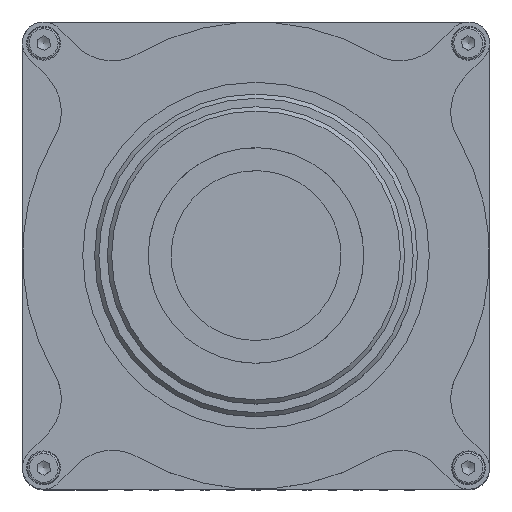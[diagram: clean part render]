
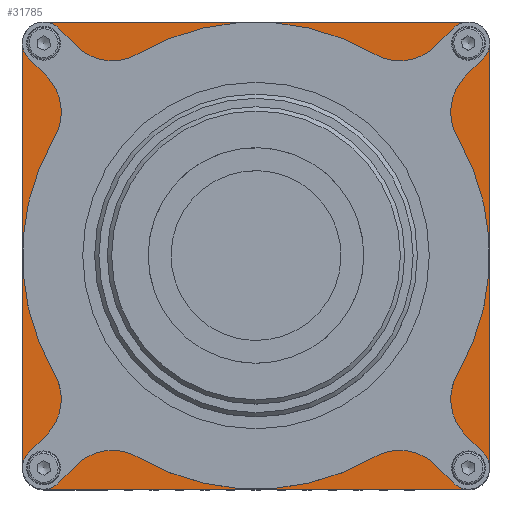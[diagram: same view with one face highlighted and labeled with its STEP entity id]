
A CAD part, top view. The second image highlights one B-rep face of the part: STEP entity #31785.
In plain terms, the highlighted planar face has unit normal (0, 0, 1).
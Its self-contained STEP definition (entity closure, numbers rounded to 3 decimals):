
#1629=FACE_BOUND('',#10366,.T.);
#1630=FACE_BOUND('',#10367,.T.);
#1631=FACE_BOUND('',#10368,.T.);
#1632=FACE_BOUND('',#10369,.T.);
#1633=FACE_BOUND('',#10370,.T.);
#3122=LINE('',#47547,#5662);
#3123=LINE('',#47551,#5663);
#3124=LINE('',#47555,#5664);
#3125=LINE('',#47559,#5665);
#5662=VECTOR('',#38995,10.);
#5663=VECTOR('',#38998,10.);
#5664=VECTOR('',#39001,10.);
#5665=VECTOR('',#39004,10.);
#8413=FACE_OUTER_BOUND('',#10365,.T.);
#10365=EDGE_LOOP('',(#23527,#23528,#23529,#23530,#23531,#23532,#23533,#23534));
#10366=EDGE_LOOP('',(#23535));
#10367=EDGE_LOOP('',(#23536));
#10368=EDGE_LOOP('',(#23537));
#10369=EDGE_LOOP('',(#23538));
#10370=EDGE_LOOP('',(#23539));
#12397=CIRCLE('',#34417,23.95);
#12398=CIRCLE('',#34419,2.5);
#12399=CIRCLE('',#34420,2.5);
#12400=CIRCLE('',#34421,2.5);
#12401=CIRCLE('',#34422,2.5);
#12402=CIRCLE('',#34423,0.784);
#12403=CIRCLE('',#34424,0.784);
#12404=CIRCLE('',#34425,0.784);
#12405=CIRCLE('',#34426,0.784);
#14099=VERTEX_POINT('',#47541);
#14100=VERTEX_POINT('',#47545);
#14101=VERTEX_POINT('',#47546);
#14102=VERTEX_POINT('',#47548);
#14103=VERTEX_POINT('',#47550);
#14104=VERTEX_POINT('',#47552);
#14105=VERTEX_POINT('',#47554);
#14106=VERTEX_POINT('',#47556);
#14107=VERTEX_POINT('',#47558);
#14108=VERTEX_POINT('',#47561);
#14109=VERTEX_POINT('',#47563);
#14110=VERTEX_POINT('',#47565);
#14111=VERTEX_POINT('',#47567);
#17623=EDGE_CURVE('',#14099,#14099,#12397,.T.);
#17625=EDGE_CURVE('',#14100,#14101,#3122,.T.);
#17626=EDGE_CURVE('',#14101,#14102,#12398,.T.);
#17627=EDGE_CURVE('',#14102,#14103,#3123,.T.);
#17628=EDGE_CURVE('',#14103,#14104,#12399,.T.);
#17629=EDGE_CURVE('',#14104,#14105,#3124,.T.);
#17630=EDGE_CURVE('',#14105,#14106,#12400,.T.);
#17631=EDGE_CURVE('',#14106,#14107,#3125,.T.);
#17632=EDGE_CURVE('',#14107,#14100,#12401,.T.);
#17633=EDGE_CURVE('',#14108,#14108,#12402,.T.);
#17634=EDGE_CURVE('',#14109,#14109,#12403,.T.);
#17635=EDGE_CURVE('',#14110,#14110,#12404,.T.);
#17636=EDGE_CURVE('',#14111,#14111,#12405,.T.);
#23527=ORIENTED_EDGE('',*,*,#17625,.T.);
#23528=ORIENTED_EDGE('',*,*,#17626,.T.);
#23529=ORIENTED_EDGE('',*,*,#17627,.T.);
#23530=ORIENTED_EDGE('',*,*,#17628,.T.);
#23531=ORIENTED_EDGE('',*,*,#17629,.T.);
#23532=ORIENTED_EDGE('',*,*,#17630,.T.);
#23533=ORIENTED_EDGE('',*,*,#17631,.T.);
#23534=ORIENTED_EDGE('',*,*,#17632,.T.);
#23535=ORIENTED_EDGE('',*,*,#17633,.T.);
#23536=ORIENTED_EDGE('',*,*,#17634,.T.);
#23537=ORIENTED_EDGE('',*,*,#17635,.T.);
#23538=ORIENTED_EDGE('',*,*,#17636,.T.);
#23539=ORIENTED_EDGE('',*,*,#17623,.T.);
#30680=PLANE('',#34418);
#31785=ADVANCED_FACE('',(#8413,#1629,#1630,#1631,#1632,#1633),#30680,.T.);
#34417=AXIS2_PLACEMENT_3D('',#47542,#38990,#38991);
#34418=AXIS2_PLACEMENT_3D('',#47544,#38993,#38994);
#34419=AXIS2_PLACEMENT_3D('',#47549,#38996,#38997);
#34420=AXIS2_PLACEMENT_3D('',#47553,#38999,#39000);
#34421=AXIS2_PLACEMENT_3D('',#47557,#39002,#39003);
#34422=AXIS2_PLACEMENT_3D('',#47560,#39005,#39006);
#34423=AXIS2_PLACEMENT_3D('',#47562,#39007,#39008);
#34424=AXIS2_PLACEMENT_3D('',#47564,#39009,#39010);
#34425=AXIS2_PLACEMENT_3D('',#47566,#39011,#39012);
#34426=AXIS2_PLACEMENT_3D('',#47568,#39013,#39014);
#38990=DIRECTION('center_axis',(0.,0.,-1.));
#38991=DIRECTION('ref_axis',(-1.,0.,0.));
#38993=DIRECTION('center_axis',(0.,0.,1.));
#38994=DIRECTION('ref_axis',(1.,0.,0.));
#38995=DIRECTION('',(0.,-1.,0.));
#38996=DIRECTION('center_axis',(0.,0.,1.));
#38997=DIRECTION('ref_axis',(-1.,0.,0.));
#38998=DIRECTION('',(1.,0.,0.));
#38999=DIRECTION('center_axis',(0.,0.,1.));
#39000=DIRECTION('ref_axis',(0.,-1.,0.));
#39001=DIRECTION('',(0.,1.,0.));
#39002=DIRECTION('center_axis',(0.,0.,1.));
#39003=DIRECTION('ref_axis',(1.,0.,0.));
#39004=DIRECTION('',(-1.,0.,0.));
#39005=DIRECTION('center_axis',(0.,0.,1.));
#39006=DIRECTION('ref_axis',(0.,1.,0.));
#39007=DIRECTION('center_axis',(0.,0.,-1.));
#39008=DIRECTION('ref_axis',(1.,0.,0.));
#39009=DIRECTION('center_axis',(0.,0.,-1.));
#39010=DIRECTION('ref_axis',(1.,0.,0.));
#39011=DIRECTION('center_axis',(0.,0.,-1.));
#39012=DIRECTION('ref_axis',(1.,0.,0.));
#39013=DIRECTION('center_axis',(0.,0.,-1.));
#39014=DIRECTION('ref_axis',(1.,0.,0.));
#47541=CARTESIAN_POINT('',(23.95,0.,8.));
#47542=CARTESIAN_POINT('Origin',(0.,0.,8.));
#47544=CARTESIAN_POINT('Origin',(0.,0.,
8.));
#47545=CARTESIAN_POINT('',(-27.5,25.,8.));
#47546=CARTESIAN_POINT('',(-27.5,-25.,8.));
#47547=CARTESIAN_POINT('',(-27.5,25.,8.));
#47548=CARTESIAN_POINT('',(-25.,-27.5,8.));
#47549=CARTESIAN_POINT('Origin',(-25.,-25.,8.));
#47550=CARTESIAN_POINT('',(25.,-27.5,8.));
#47551=CARTESIAN_POINT('',(-25.,-27.5,8.));
#47552=CARTESIAN_POINT('',(27.5,-25.,8.));
#47553=CARTESIAN_POINT('Origin',(25.,-25.,8.));
#47554=CARTESIAN_POINT('',(27.5,25.,8.));
#47555=CARTESIAN_POINT('',(27.5,-25.,8.));
#47556=CARTESIAN_POINT('',(25.,27.5,8.));
#47557=CARTESIAN_POINT('Origin',(25.,25.,8.));
#47558=CARTESIAN_POINT('',(-25.,27.5,8.));
#47559=CARTESIAN_POINT('',(25.,27.5,8.));
#47560=CARTESIAN_POINT('Origin',(-25.,25.,8.));
#47561=CARTESIAN_POINT('',(24.217,25.,8.));
#47562=CARTESIAN_POINT('Origin',(25.,25.,8.));
#47563=CARTESIAN_POINT('',(-25.784,-25.,8.));
#47564=CARTESIAN_POINT('Origin',(-25.,-25.,8.));
#47565=CARTESIAN_POINT('',(-25.784,25.,8.));
#47566=CARTESIAN_POINT('Origin',(-25.,25.,8.));
#47567=CARTESIAN_POINT('',(24.217,-25.,8.));
#47568=CARTESIAN_POINT('Origin',(25.,-25.,8.));
